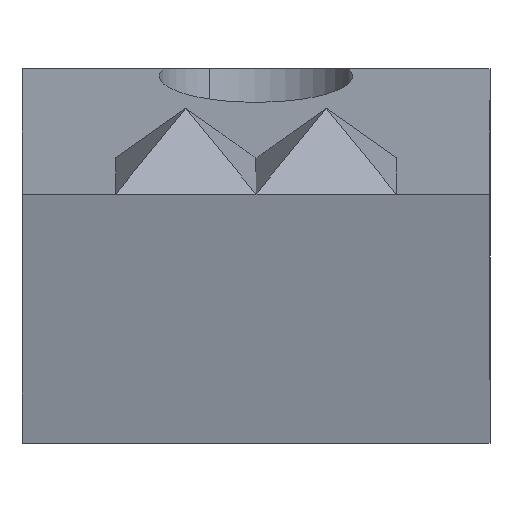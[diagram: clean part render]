
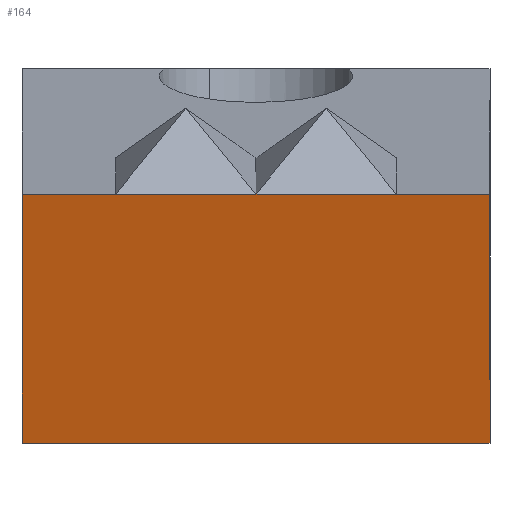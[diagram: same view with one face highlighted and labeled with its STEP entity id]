
A CAD part, left-side view. The second image highlights one B-rep face of the part: STEP entity #164.
In plain terms, the highlighted planar face has unit normal (-0.966, 0, -0.259).
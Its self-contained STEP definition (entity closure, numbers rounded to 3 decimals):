
#113=AXIS2_PLACEMENT_3D('Plane Axis2P3D',#110,#111,#112) ;
#41=CARTESIAN_POINT('Vertex',(-11.5,0.,5.321)) ;
#69=CARTESIAN_POINT('Line Origine',(-11.5,-1.5,5.321)) ;
#73=CARTESIAN_POINT('Vertex',(-11.5,-3.,5.321)) ;
#110=CARTESIAN_POINT('Axis2P3D Location',(-11.5,5.,5.321)) ;
#115=CARTESIAN_POINT('Line Origine',(-10.074,0.,0.)) ;
#119=CARTESIAN_POINT('Vertex',(-10.074,5.,0.)) ;
#121=CARTESIAN_POINT('Vertex',(-10.074,-5.,0.)) ;
#124=CARTESIAN_POINT('Line Origine',(-10.787,-5.,2.66)) ;
#128=CARTESIAN_POINT('Vertex',(-11.5,-5.,5.321)) ;
#131=CARTESIAN_POINT('Line Origine',(-11.5,-4.,5.321)) ;
#136=CARTESIAN_POINT('Line Origine',(-11.5,1.5,5.321)) ;
#140=CARTESIAN_POINT('Vertex',(-11.5,3.,5.321)) ;
#143=CARTESIAN_POINT('Line Origine',(-11.5,4.,5.321)) ;
#147=CARTESIAN_POINT('Vertex',(-11.5,5.,5.321)) ;
#150=CARTESIAN_POINT('Line Origine',(-10.787,5.,2.66)) ;
#70=DIRECTION('Vector Direction',(0.,-1.,0.)) ;
#111=DIRECTION('Axis2P3D Direction',(-0.966,-0.,-0.259)) ;
#112=DIRECTION('Axis2P3D XDirection',(0.259,0.,-0.966)) ;
#116=DIRECTION('Vector Direction',(0.,-1.,0.)) ;
#125=DIRECTION('Vector Direction',(0.259,0.,-0.966)) ;
#132=DIRECTION('Vector Direction',(0.,-1.,0.)) ;
#137=DIRECTION('Vector Direction',(0.,1.,0.)) ;
#144=DIRECTION('Vector Direction',(0.,-1.,0.)) ;
#151=DIRECTION('Vector Direction',(0.259,0.,-0.966)) ;
#71=VECTOR('Line Direction',#70,1.) ;
#117=VECTOR('Line Direction',#116,1.) ;
#126=VECTOR('Line Direction',#125,1.) ;
#133=VECTOR('Line Direction',#132,1.) ;
#138=VECTOR('Line Direction',#137,1.) ;
#145=VECTOR('Line Direction',#144,1.) ;
#152=VECTOR('Line Direction',#151,1.) ;
#156=ORIENTED_EDGE('',*,*,#123,.T.) ;
#157=ORIENTED_EDGE('',*,*,#130,.F.) ;
#158=ORIENTED_EDGE('',*,*,#135,.F.) ;
#159=ORIENTED_EDGE('',*,*,#75,.F.) ;
#160=ORIENTED_EDGE('',*,*,#142,.F.) ;
#161=ORIENTED_EDGE('',*,*,#149,.F.) ;
#162=ORIENTED_EDGE('',*,*,#154,.T.) ;
#164=ADVANCED_FACE('PartBody',(#163),#114,.T.) ;
#75=EDGE_CURVE('',#42,#74,#72,.T.) ;
#123=EDGE_CURVE('',#120,#122,#118,.T.) ;
#130=EDGE_CURVE('',#129,#122,#127,.T.) ;
#135=EDGE_CURVE('',#74,#129,#134,.T.) ;
#142=EDGE_CURVE('',#141,#42,#139,.F.) ;
#149=EDGE_CURVE('',#148,#141,#146,.T.) ;
#154=EDGE_CURVE('',#148,#120,#153,.T.) ;
#155=EDGE_LOOP('',(#156,#157,#158,#159,#160,#161,#162)) ;
#163=FACE_OUTER_BOUND('',#155,.T.) ;
#72=LINE('Line',#69,#71) ;
#118=LINE('Line',#115,#117) ;
#127=LINE('Line',#124,#126) ;
#134=LINE('Line',#131,#133) ;
#139=LINE('Line',#136,#138) ;
#146=LINE('Line',#143,#145) ;
#153=LINE('Line',#150,#152) ;
#114=PLANE('Plane',#113) ;
#42=VERTEX_POINT('',#41) ;
#74=VERTEX_POINT('',#73) ;
#120=VERTEX_POINT('',#119) ;
#122=VERTEX_POINT('',#121) ;
#129=VERTEX_POINT('',#128) ;
#141=VERTEX_POINT('',#140) ;
#148=VERTEX_POINT('',#147) ;
